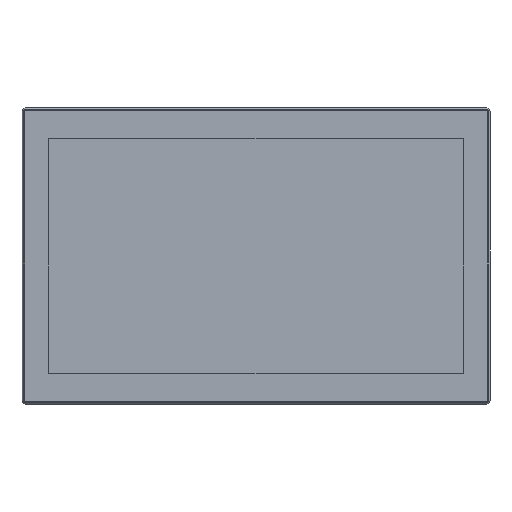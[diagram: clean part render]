
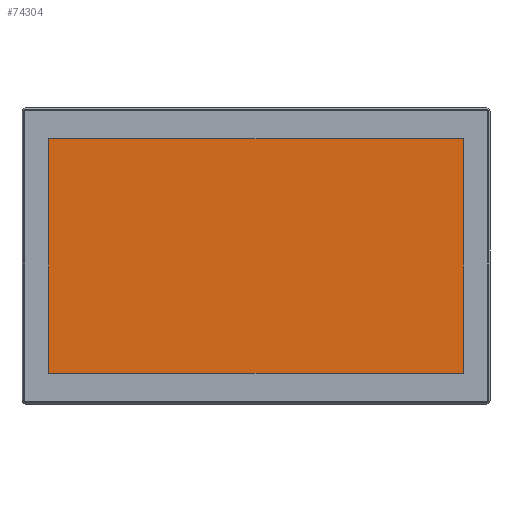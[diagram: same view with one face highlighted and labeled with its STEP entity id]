
A CAD part, top view. The second image highlights one B-rep face of the part: STEP entity #74304.
In plain terms, the highlighted planar face has unit normal (0, 0, 1).
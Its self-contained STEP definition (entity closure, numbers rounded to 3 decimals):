
#2353 = VECTOR ( 'NONE', #23463, 1000. ) ;
#3290 = EDGE_CURVE ( 'NONE', #85552, #99453, #53931, .T. ) ;
#18146 = VERTEX_POINT ( 'NONE', #34562 ) ;
#18206 = ORIENTED_EDGE ( 'NONE', *, *, #81421, .T. ) ;
#19386 = DIRECTION ( 'NONE',  ( 0., -1., 0. ) ) ;
#20106 = CARTESIAN_POINT ( 'NONE',  ( 26.4, 30.8, 65.84 ) ) ;
#21612 = DIRECTION ( 'NONE',  ( 0., 1., 0. ) ) ;
#22327 = CARTESIAN_POINT ( 'NONE',  ( 437.2, 30.8, 65.84 ) ) ;
#22466 = LINE ( 'NONE', #20106, #103518 ) ;
#23463 = DIRECTION ( 'NONE',  ( -1., 0., 0. ) ) ;
#34562 = CARTESIAN_POINT ( 'NONE',  ( 437.2, 30.8, 65.84 ) ) ;
#34603 = EDGE_CURVE ( 'NONE', #18146, #85552, #42116, .T. ) ;
#37770 = DIRECTION ( 'NONE',  ( -1., 0., 0. ) ) ;
#41956 = CARTESIAN_POINT ( 'NONE',  ( 26.4, 30.8, 65.84 ) ) ;
#42116 = LINE ( 'NONE', #22327, #64047 ) ;
#43145 = CARTESIAN_POINT ( 'NONE',  ( 437.2, 262.8, 65.84 ) ) ;
#45121 = LINE ( 'NONE', #79523, #88902 ) ;
#45964 = VERTEX_POINT ( 'NONE', #41956 ) ;
#46734 = PLANE ( 'NONE',  #102831 ) ;
#53931 = LINE ( 'NONE', #72791, #2353 ) ;
#64047 = VECTOR ( 'NONE', #21612, 1000. ) ;
#66311 = ORIENTED_EDGE ( 'NONE', *, *, #34603, .T. ) ;
#71252 = DIRECTION ( 'NONE',  ( 0., 0., -1. ) ) ;
#71953 = CARTESIAN_POINT ( 'NONE',  ( 26.4, 262.8, 65.84 ) ) ;
#72212 = FACE_OUTER_BOUND ( 'NONE', #75450, .T. ) ;
#72791 = CARTESIAN_POINT ( 'NONE',  ( 26.4, 262.8, 65.84 ) ) ;
#74304 = ADVANCED_FACE ( 'NONE', ( #72212 ), #46734, .F. ) ;
#74323 = EDGE_CURVE ( 'NONE', #45964, #18146, #45121, .T. ) ;
#75450 = EDGE_LOOP ( 'NONE', ( #66311, #78568, #18206, #81676 ) ) ;
#78568 = ORIENTED_EDGE ( 'NONE', *, *, #3290, .T. ) ;
#79523 = CARTESIAN_POINT ( 'NONE',  ( 26.4, 30.8, 65.84 ) ) ;
#81421 = EDGE_CURVE ( 'NONE', #99453, #45964, #22466, .T. ) ;
#81676 = ORIENTED_EDGE ( 'NONE', *, *, #74323, .T. ) ;
#85552 = VERTEX_POINT ( 'NONE', #43145 ) ;
#88902 = VECTOR ( 'NONE', #103258, 1000. ) ;
#94976 = CARTESIAN_POINT ( 'NONE',  ( 231.8, 146.8, 65.84 ) ) ;
#99453 = VERTEX_POINT ( 'NONE', #71953 ) ;
#102831 = AXIS2_PLACEMENT_3D ( 'NONE', #94976, #71252, #37770 ) ;
#103258 = DIRECTION ( 'NONE',  ( 1., 0., 0. ) ) ;
#103518 = VECTOR ( 'NONE', #19386, 1000. ) ;
